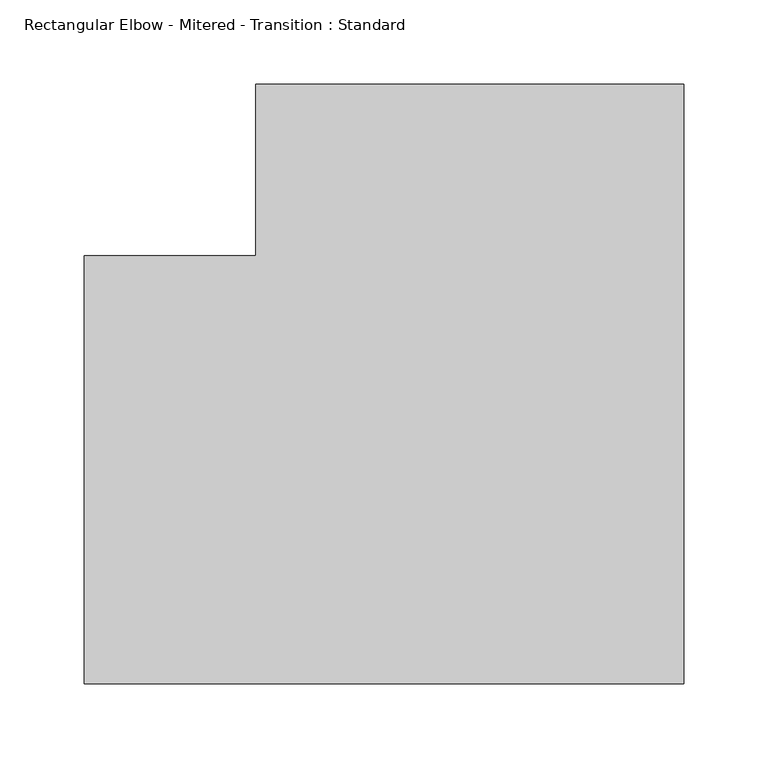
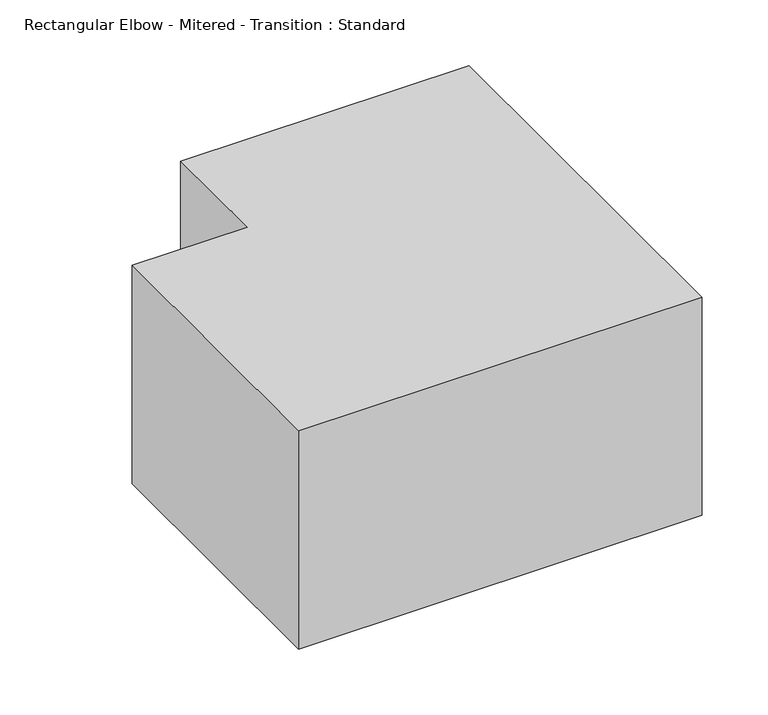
"""IFC4 building model written with IfcOpenShell, lengths in millimetres: duct fitting geometry, Rectangular Elbow - Mitered - Transition : Standard."""

from ifc_helpers import new_model, si_unit, frame, origin, place, context, project, spatial, polyline, outline, extrude, source, transform, mapped, element, save


def rectangular_elbow_mitered_transition_standard_2c7a3de9(model_context):
    return source(origin(), model_context, "Body", "SweptSolid", [
        extrude(outline(polyline([(-127.0, 127.0), (-127.0, 228.6), (127.0, 228.6), (127.0, -127.0), (-228.6, -127.0), (-228.6, 127.0), (-127.0, 127.0)])), frame((0.0, 0.0, -101.6), z_axis=(0.0, 0.0, 1.0), x_axis=(1.0, 0.0, 0.0)), (0.0, 0.0, 1.0), 203.2),
    ])


if __name__ == "__main__":
    model = new_model("IFC4")
    model_context = context("Model", 3, world=origin())
    ifc_project = project(units=[si_unit("LENGTHUNIT", "METRE", prefix="MILLI")], contexts=[model_context])
    site = spatial("IfcSite", under=ifc_project)
    building = spatial("IfcBuilding", under=site)
    placement = place(None, origin())
    rectangular_elbow_mitered_transition_standard_shape = rectangular_elbow_mitered_transition_standard_2c7a3de9(model_context)
    element("IfcDuctFitting", 1, ObjectType="Rectangular Elbow - Mitered - Transition : Standard", at=placement, inside=building, context=model_context, shape_type="MappedRepresentation", body=[
        mapped(rectangular_elbow_mitered_transition_standard_shape, transform((0.0, 0.0, 0.0), x_axis=(1.0, 0.0, 0.0), y_axis=(0.0, 1.0, 0.0), z_axis=(0.0, 0.0, 1.0))),
    ])
    save(model, "model.ifc")
